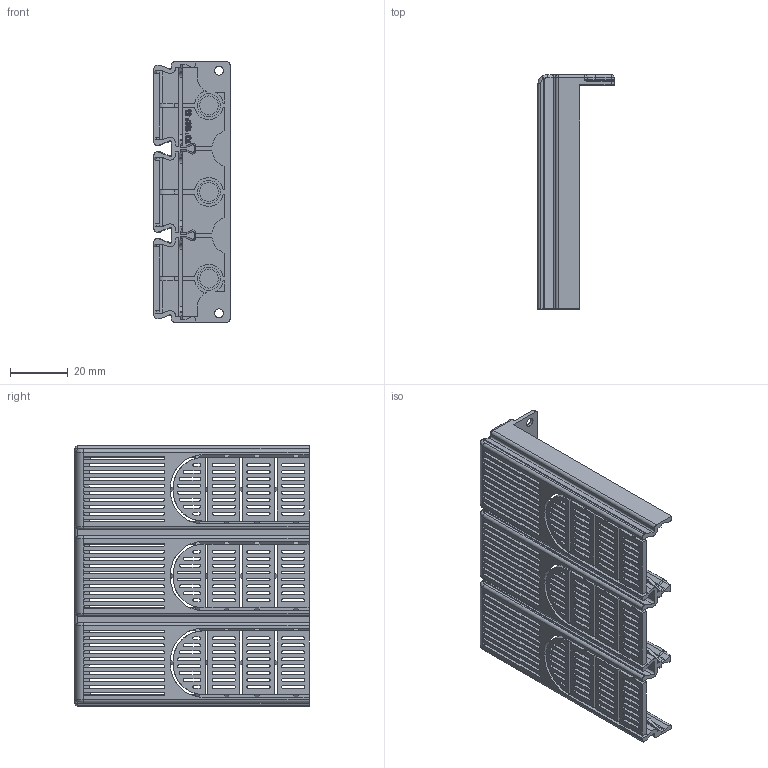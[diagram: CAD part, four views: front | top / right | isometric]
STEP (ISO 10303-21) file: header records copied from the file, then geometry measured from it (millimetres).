
FILE_DESCRIPTION((''),'2;1');
FILE_NAME('U1_3P_SHORT_TERMINAL_COVER','2018-06-04T',('HHI'),(''),'PRO/ENGINEER BY PARAMETRIC TECHNOLOGY CORPORATION, 2012453','PRO/ENGINEER BY PARAMETRIC TECHNOLOGY CORPORATION, 2012453','');
FILE_SCHEMA(('CONFIG_CONTROL_DESIGN'));
Length unit declared in the file: millimetre
Products named in the file (1): U1_3P_SHORT_TERMINAL_COVER
Bounding box: 26.3 x 81 x 90 mm (x, y, z)
Volume: 24708.3 mm3; surface area: 37430.3 mm2
Topology: 1 solids, 1 shells, 1362 faces, 4019 edges, 2600 vertices
Faces by surface type: plane 650, cylinder 457, extrusion 123, torus 48, bspline 42, cone 30, sphere 12
Entity records: 47699 total; most frequent: CARTESIAN_POINT 10737, ORIENTED_EDGE 8038, DIRECTION 7256, EDGE_CURVE 4019, VECTOR 2674, VERTEX_POINT 2600, LINE 2551, AXIS2_PLACEMENT_3D 2291
